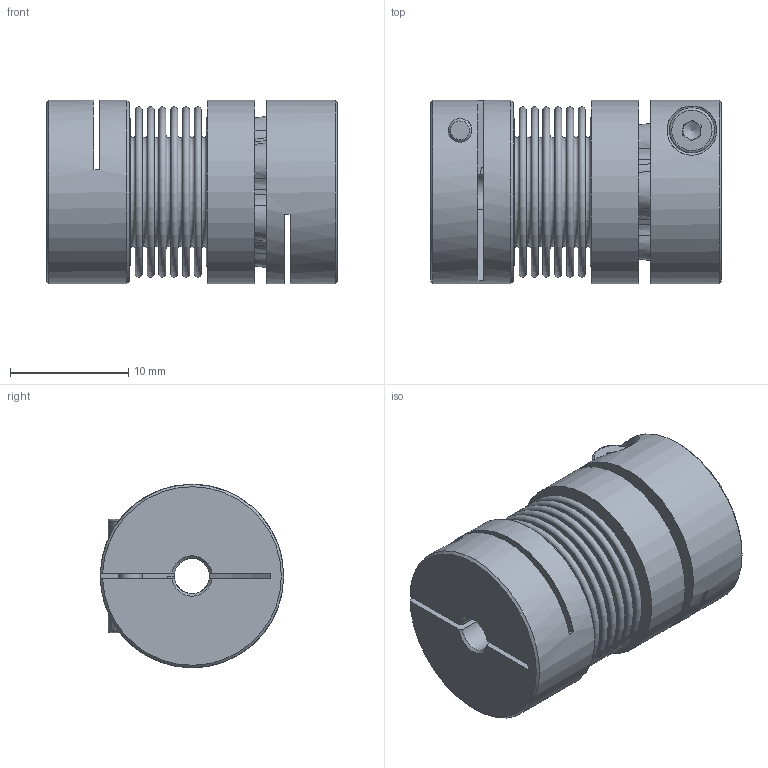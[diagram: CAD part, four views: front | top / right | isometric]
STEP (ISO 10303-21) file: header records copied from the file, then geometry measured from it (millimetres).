
FILE_DESCRIPTION( ( 'KBE1/14 - N7H8 - N14H7 - 98 Sh' ), '1' );
FILE_NAME( 'K:/Konstruktion/Fertigungszeichnungen/Metallbalgkupplung/KB2P/5-10/KB2P-5-25.stp', '14.12.2015', ( 'KBK-Antriebstechnik' ), ( 'KBK-Antriebstechnik' ), 'PSStep 16.0.42', 'Solid Edge St6', ' ' );
FILE_SCHEMA( ( 'AUTOMOTIVE_DESIGN { 1 0 10303 214 1 1 1 1 }' ) );
Length unit declared in the file: millimetre
Products named in the file (6): Assem1; Stecknabe KB2P-10; BK5_Standard_0; Socket Head Cap Screw_DIN_DIN 912 M2 x 8 --- 8N_5; KN5_Standard_2; Balgaufnahme KB2P-10_für Step
Assembly tree (6 placements, depth 2):
  Assem1
    Stecknabe KB2P-10
    BK5_Standard_0
    Socket Head Cap Screw_DIN_DIN 912 M2 x 8 --- 8N_5  x2
    KN5_Standard_2
    Balgaufnahme KB2P-10_für Step
Bounding box: 24.6 x 15.5 x 15.5 mm (x, y, z)
Volume: 3171.3 mm3; surface area: 6113.2 mm2
Topology: 6 solids, 6 shells, 196 faces, 438 edges, 285 vertices
Faces by surface type: plane 83, cone 54, torus 35, cylinder 24
Full cylindrical faces by diameter (mm): 1.567 x1, 2 x3, 2.2 x2, 3 x2, 3.8 x2, 12.9 x2, 13.1 x2, 15.5 x3
Entity records: 6399 total; most frequent: CARTESIAN_POINT 1022, DIRECTION 877, ORIENTED_EDGE 662, AXIS2_PLACEMENT_3D 390, EDGE_CURVE 331, EDGE_LOOP 273, VERTEX_POINT 261, FACE_OUTER_BOUND 223
